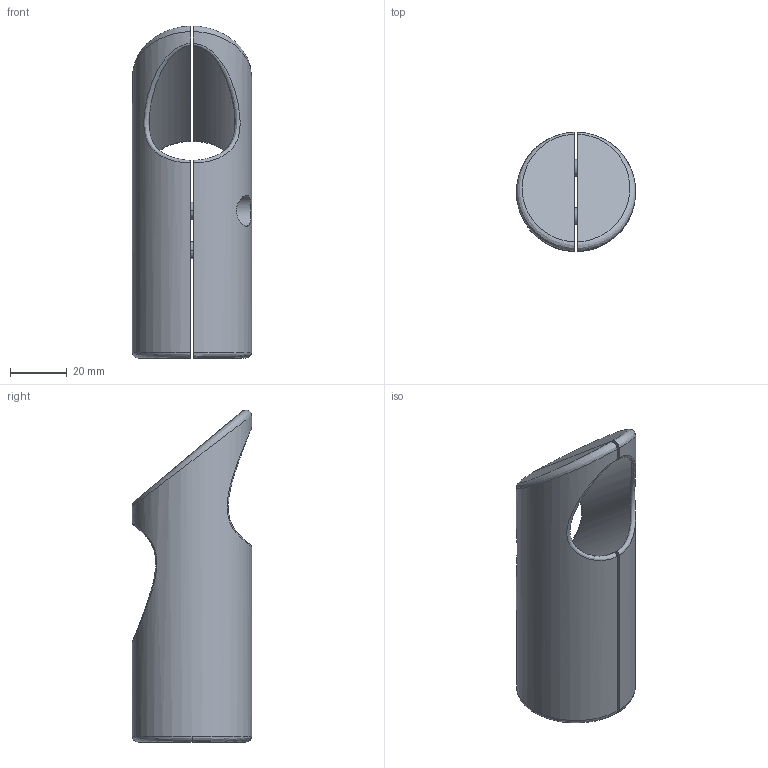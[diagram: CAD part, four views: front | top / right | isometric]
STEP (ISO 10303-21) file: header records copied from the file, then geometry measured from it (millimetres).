
FILE_DESCRIPTION (( 'STEP AP214' ), '1' );
FILE_NAME ('31000410006.STEP', '2024-09-02T09:45:44', ( '' ), ( '' ), 'SwSTEP 2.0', 'SolidWorks 2016', '' );
FILE_SCHEMA (( 'AUTOMOTIVE_DESIGN' ));
Length unit declared in the file: millimetre
Products named in the file (4): 2218_Schale 1; DIN 6912  (Regelgewinde) M6 x 20; 2218_Schale 2; 31000410006
Assembly tree (4 placements, depth 2):
  31000410006
    2218_Schale 1
    2218_Schale 2
    DIN 6912  (Regelgewinde) M6 x 20  x2
Bounding box: 42 x 41.99 x 116.98 mm (x, y, z)
Volume: 74065.2 mm3; surface area: 27094.3 mm2
Topology: 4 solids, 4 shells, 93 faces, 242 edges, 157 vertices
Faces by surface type: cylinder 32, plane 30, cone 20, bspline 11
Entity records: 9157 total; most frequent: CARTESIAN_POINT 6540, ORIENTED_EDGE 368, DIRECTION 318, EDGE_CURVE 184, VERTEX_POINT 124, AXIS2_PLACEMENT_3D 124, UNCERTAINTY_MEASURE_WITH_UNIT 82, EDGE_LOOP 82
